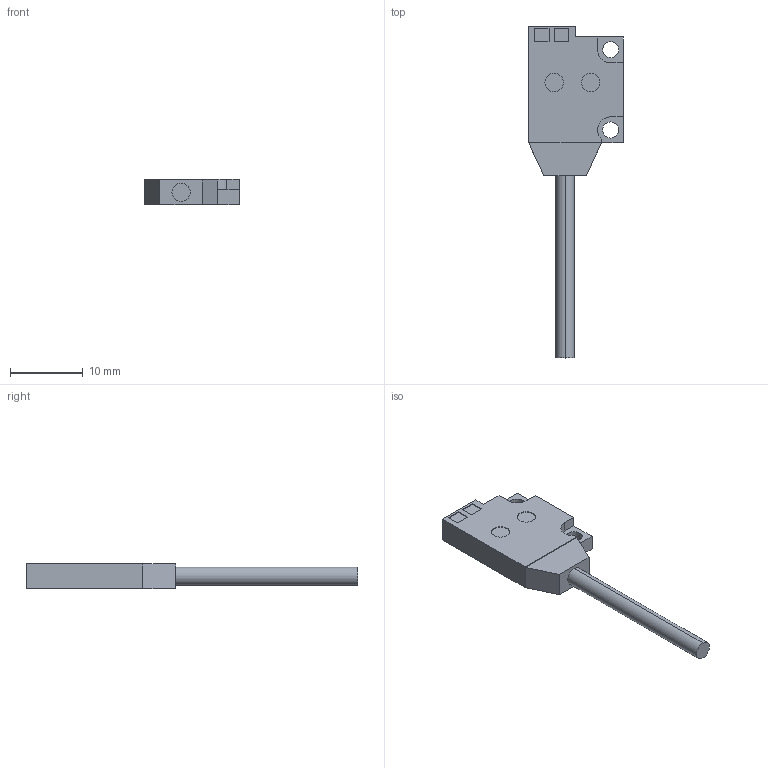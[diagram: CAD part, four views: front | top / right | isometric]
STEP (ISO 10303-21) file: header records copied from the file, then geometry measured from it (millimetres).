
FILE_DESCRIPTION (( 'STEP AP203' ), '1' );
FILE_NAME ('EX-14A.STEP', '2005-09-05T07:26:28', ( '川島良英' ), ( ' ' ), 'SwSTEP 2.0', 'SolidWorks 2004251', '' );
FILE_SCHEMA (( 'CONFIG_CONTROL_DESIGN' ));
Length unit declared in the file: millimetre
Products named in the file (1): EX-14A
Bounding box: 13 x 45.5 x 3.5 mm (x, y, z)
Volume: 886.9 mm3; surface area: 902 mm2
Topology: 1 solids, 1 shells, 44 faces, 108 edges, 71 vertices
Faces by surface type: plane 32, cylinder 12
Entity records: 1377 total; most frequent: CARTESIAN_POINT 224, DIRECTION 222, ORIENTED_EDGE 216, EDGE_CURVE 108, LINE 84, VECTOR 84, VERTEX_POINT 71, AXIS2_PLACEMENT_3D 69
